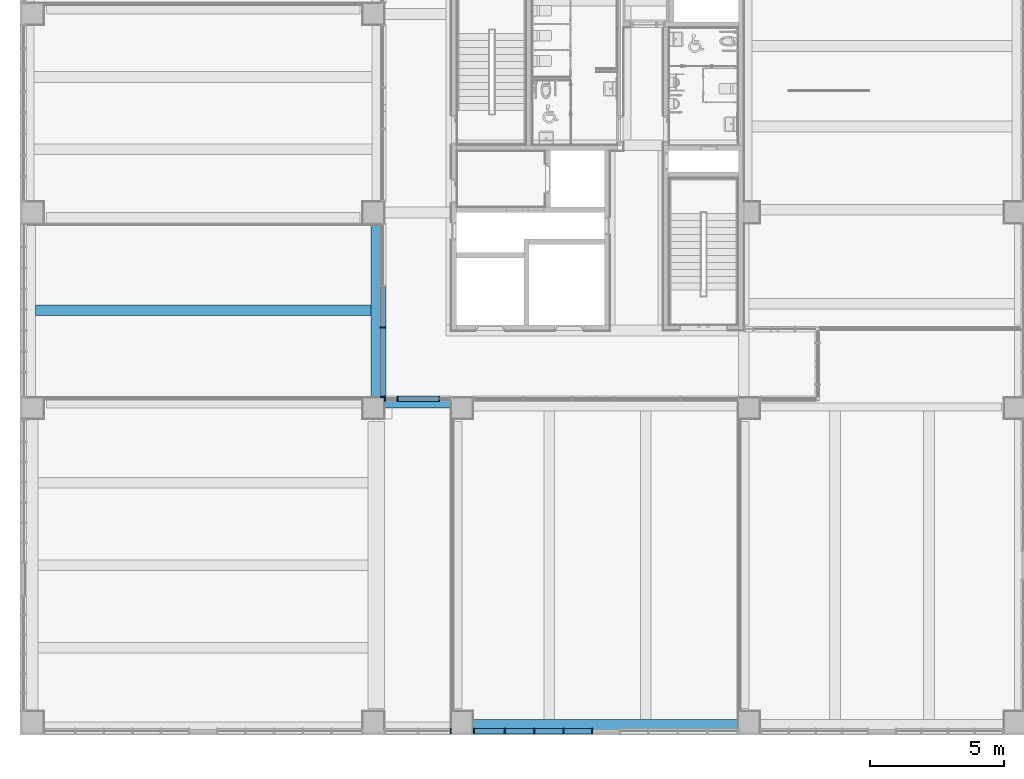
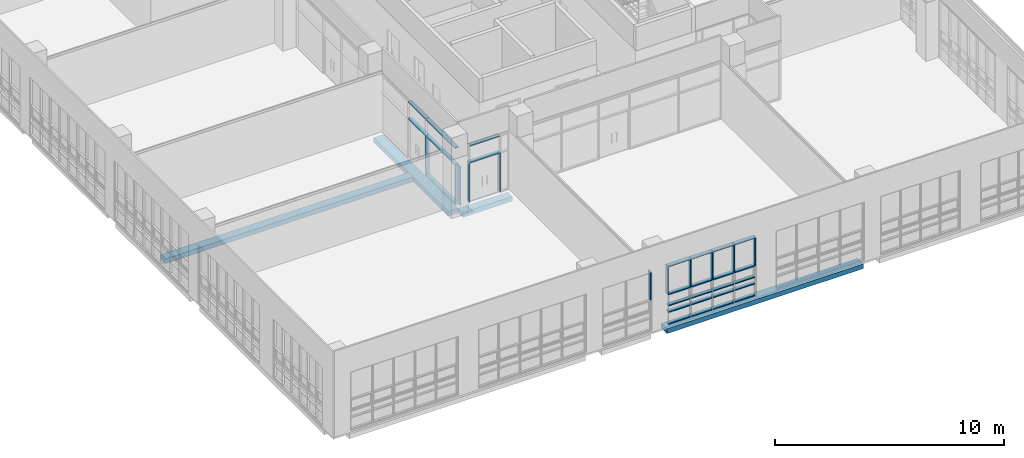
# One storey, part 4 of 74: 38 members, 4 beams, 4 elements without a shape of their own.
"""IFC2X3 building model written with IfcOpenShell, lengths in millimetres."""

import ifcopenshell
import ifcopenshell.guid

model = None  # the IFC model being written
_history = None  # IfcOwnerHistory: only IFC2X3 demands one
_inside = {}  # id of a spatial element -> (the spatial element, [elements in it])
_under = {}  # id of a project, library or spatial element -> (it, [spatial elements below it])
_declared = {}  # id of a project -> (the project, [libraries it declares])
_typed = {}  # id of a type object -> (the type object, [elements of that type])
_made_of = {}  # id of a material, layer set ... -> (it, [elements and type objects made of it])


def new_model(schema):
    """Start an empty IFC model of exactly this schema.

    Asked for "IFC4X3", IfcOpenShell would pick the latest addendum, in which some entities
    have other attributes; the version numbers below select the first issue.
    IFC2X3 requires an IfcOwnerHistory on every rooted entity: one is made here for all.
    """
    global model, _history
    if schema == "IFC4X3":
        model = ifcopenshell.file(schema_version=(4, 3, 0, 0))
    else:
        model = ifcopenshell.file(schema=schema)
    _inside.clear()
    _under.clear()
    _declared.clear()
    _typed.clear()
    _made_of.clear()
    _history = None
    if model.schema == "IFC2X3":
        org = make("IfcOrganization", Name="unknown")
        user = make(
            "IfcPersonAndOrganization",
            ThePerson=make("IfcPerson", FamilyName="unknown"),
            TheOrganization=org,
        )
        app = make(
            "IfcApplication",
            ApplicationDeveloper=org,
            Version="unknown",
            ApplicationFullName="unknown",
            ApplicationIdentifier="unknown",
        )
        _history = make(
            "IfcOwnerHistory",
            OwningUser=user,
            OwningApplication=app,
            ChangeAction="ADDED",
            CreationDate=0,
        )
    return model


def make(cls, **values):
    """One entity of the class cls with the attributes given. An attribute that is None is left unset."""
    return model.create_entity(
        cls, **{name: value for name, value in values.items() if value is not None}
    )


def entity(cls, *values):
    """Any entity or typed value of the class cls, its attributes in the order of the schema. None: left unset."""
    e = model.create_entity(cls)
    for i, value in enumerate(values):
        if value is not None:
            e[i] = value
    return e


def rooted(cls, **values):
    """An entity with a GlobalId (a new one), such as an element, a storey or a relation."""
    return make(cls, GlobalId=ifcopenshell.guid.new(), OwnerHistory=_history, **values)


def si_unit(unit_type, name, prefix=None):
    """IfcSIUnit, for example si_unit("LENGTHUNIT", "METRE", prefix="MILLI")."""
    return make("IfcSIUnit", UnitType=unit_type, Prefix=prefix, Name=name)


def converted_unit(unit_type, name, factor, base, dimensions=None, offset=None):
    """IfcConversionBasedUnit, such as the inch: factor (a typed value) times the base unit."""
    return make(
        "IfcConversionBasedUnit"
        if offset is None
        else "IfcConversionBasedUnitWithOffset",
        ConversionOffset=offset,
        Dimensions=None
        if dimensions is None
        else entity("IfcDimensionalExponents", *dimensions),
        UnitType=unit_type,
        Name=name,
        ConversionFactor=make(
            "IfcMeasureWithUnit", ValueComponent=factor, UnitComponent=base
        ),
    )


def derived_unit(unit_type, elements):
    """IfcDerivedUnit: a product of units, each with its exponent."""
    return make(
        "IfcDerivedUnit",
        Elements=[
            make("IfcDerivedUnitElement", Unit=unit, Exponent=power)
            for unit, power in elements
        ],
        UnitType=unit_type,
    )


def assignment(units):
    """IfcUnitAssignment: the units of a project."""
    return None if units is None else make("IfcUnitAssignment", Units=units)


def point(xyz):
    """IfcCartesianPoint."""
    return None if xyz is None else make("IfcCartesianPoint", Coordinates=xyz)


def direction(xyz):
    """IfcDirection."""
    return None if xyz is None else make("IfcDirection", DirectionRatios=xyz)


def frame(location, z_axis=None, x_axis=None):
    """IfcAxis2Placement3D, a coordinate frame: its origin and axes. An axis left out is left unset."""
    return make(
        "IfcAxis2Placement3D",
        Location=point(location),
        Axis=direction(z_axis),
        RefDirection=direction(x_axis),
    )


def frame_2d(location, x_axis=None):
    """IfcAxis2Placement2D, a coordinate frame in the plane: its origin and x axis."""
    return make(
        "IfcAxis2Placement2D", Location=point(location), RefDirection=direction(x_axis)
    )


def origin():
    """The frame at (0, 0, 0) with its axes left unset."""
    return frame((0.0, 0.0, 0.0))


def origin_2d_with_axis():
    """The frame at (0, 0) in the plane with the x axis (1, 0) written out."""
    return frame_2d((0.0, 0.0), x_axis=(1.0, 0.0))


def place(relative_to, where):
    """IfcLocalPlacement: puts the frame where relative to a parent placement (None: the world)."""
    return make(
        "IfcLocalPlacement", PlacementRelTo=relative_to, RelativePlacement=where
    )


def context(
    kind, dimensions, precision=None, world=None, true_north=None, identifier=None
):
    """IfcGeometricRepresentationContext, for example the 3D "Model" context."""
    return make(
        "IfcGeometricRepresentationContext",
        ContextIdentifier=identifier,
        ContextType=kind,
        CoordinateSpaceDimension=dimensions,
        Precision=precision,
        WorldCoordinateSystem=world,
        TrueNorth=true_north,
    )


def subcontext(parent, identifier, kind, view, scale=None):
    """IfcGeometricRepresentationSubContext, for example "Body" below "Model"."""
    return make(
        "IfcGeometricRepresentationSubContext",
        ContextIdentifier=identifier,
        ContextType=kind,
        ParentContext=parent,
        TargetScale=scale,
        TargetView=view,
    )


def project(units=None, contexts=None):
    """IfcProject with its units and contexts."""
    return rooted(
        "IfcProject",
        Name="project",
        RepresentationContexts=contexts,
        UnitsInContext=assignment(units),
    )


def spatial(cls, under=None, at=None, **own):
    """A site, building, storey or space (cls), placed at a placement, below another one or the project."""
    s = rooted(cls, ObjectPlacement=at, **own)
    if under is not None:
        _under.setdefault(under.id(), (under, []))[1].append(s)
    return s


def profile(cls, at=None, kind="AREA", **sizes):
    """A parametric profile (cls). Its sizes go by their IFC names, for example OverallWidth=200.0."""
    return make(cls, ProfileType=kind, Position=at, **sizes)


def rectangle(**sizes):
    """IfcRectangleProfileDef."""
    return profile("IfcRectangleProfileDef", **sizes)


def extrude(swept, where, along, depth):
    """IfcExtrudedAreaSolid: the profile swept, set in the frame where, extruded along a direction by depth."""
    return make(
        "IfcExtrudedAreaSolid",
        SweptArea=swept,
        Position=where,
        ExtrudedDirection=direction(along),
        Depth=depth,
    )


def shape(context_of_items, identifier, shape_type, items):
    """IfcShapeRepresentation: the items that make up one representation, for example the "Body"."""
    return make(
        "IfcShapeRepresentation",
        ContextOfItems=context_of_items,
        RepresentationIdentifier=identifier,
        RepresentationType=shape_type,
        Items=items,
    )


def source(mapping_origin, context_of_items, identifier, shape_type, items):
    """IfcRepresentationMap: a shape defined once, which mapped items show again and again."""
    return make(
        "IfcRepresentationMap",
        MappingOrigin=mapping_origin,
        MappedRepresentation=shape(context_of_items, identifier, shape_type, items),
    )


def transform(
    local_origin,
    x_axis=None,
    y_axis=None,
    z_axis=None,
    scale=None,
    scale2=None,
    scale3=None,
    uniform=True,
):
    """IfcCartesianTransformationOperator3D, or its non-uniform kind. x_axis, y_axis, z_axis: its Axis1, 2, 3."""
    if uniform:
        return make(
            "IfcCartesianTransformationOperator3D",
            Axis1=direction(x_axis),
            Axis2=direction(y_axis),
            LocalOrigin=point(local_origin),
            Scale=scale,
            Axis3=direction(z_axis),
        )
    return make(
        "IfcCartesianTransformationOperator3DnonUniform",
        Axis1=direction(x_axis),
        Axis2=direction(y_axis),
        LocalOrigin=point(local_origin),
        Scale=scale,
        Axis3=direction(z_axis),
        Scale2=scale2,
        Scale3=scale3,
    )


def mapped(mapping_source, mapping_target):
    """IfcMappedItem: shows the shape of a source again, moved by a transform."""
    return make(
        "IfcMappedItem", MappingSource=mapping_source, MappingTarget=mapping_target
    )


def material(Name=None, Category=None):
    """IfcMaterial."""
    return make("IfcMaterial", Name=Name, Category=Category)


def made_of(thing, what):
    """Note that an element or type object is made of a material, layer set ...; save() writes the relation."""
    if what is not None:
        _made_of.setdefault(what.id(), (what, []))[1].append(thing)
    return thing


def type_object(cls, material=None, **own):
    """A type object (cls), such as IfcWallType, which elements share."""
    return made_of(rooted(cls, **own), material)


def type_shapes(of_type, sources):
    """Give a type object the sources (RepresentationMaps) that its elements show as mapped items."""
    of_type.RepresentationMaps = sources


def element(
    cls,
    number,
    at=None,
    inside=None,
    cuts=None,
    type_object=None,
    material=None,
    context=None,
    identifier="Body",
    shape_type=None,
    held_by="IfcProductDefinitionShape",
    body=None,
    shapes=None,
    **own,
):
    """One element of the class cls, such as IfcWall. Its Tag is "e" and its number.

    at: its placement. inside: the storey or other place that contains it. cuts: it is an
    opening in that element (IfcRelVoidsElement). A single representation is given by context,
    identifier, shape_type and body (its items); several are given by shapes. held_by: the class
    of the entity that holds the representations. save() writes the other relations.
    """
    e = rooted(cls, Tag="e%d" % number, ObjectPlacement=at, **own)
    if body is not None:
        shapes = [shape(context, identifier, shape_type, body)]
    if shapes is not None:
        e.Representation = make(held_by, Representations=shapes)
    if inside is not None:
        _inside.setdefault(inside.id(), (inside, []))[1].append(e)
    if cuts is not None:
        rooted(
            "IfcRelVoidsElement", RelatingBuildingElement=cuts, RelatedOpeningElement=e
        )
    if type_object is not None:
        _typed.setdefault(type_object.id(), (type_object, []))[1].append(e)
    return made_of(e, material)


def aggregate(whole, parts):
    """IfcRelAggregates: a whole, such as a stair, and the parts it consists of."""
    return rooted("IfcRelAggregates", RelatingObject=whole, RelatedObjects=parts)


def save(model, path):
    """Write the relations noted so far, then the file.

    IfcRelAggregates (storeys below a building ...), IfcRelContainedInSpatialStructure (elements
    in a storey), IfcRelDefinesByType, IfcRelAssociatesMaterial and IfcRelDeclares: one each for
    every whole, place, type object, material and project.
    """
    for whole, parts in _under.values():
        aggregate(whole, parts)
    for where, things in _inside.values():
        rooted(
            "IfcRelContainedInSpatialStructure",
            RelatedElements=things,
            RelatingStructure=where,
        )
    for kind, things in _typed.values():
        rooted("IfcRelDefinesByType", RelatedObjects=things, RelatingType=kind)
    for what, things in _made_of.values():
        rooted("IfcRelAssociatesMaterial", RelatedObjects=things, RelatingMaterial=what)
    for by, libraries in _declared.values():
        rooted("IfcRelDeclares", RelatingContext=by, RelatedDefinitions=libraries)
    model.write(path)


model = new_model("IFC2X3")

# Units and contexts
model_context = context("Model", 3, precision=0.01, world=origin(), true_north=direction((6.123031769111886e-17, 1.0)))
body_context = subcontext(model_context, "Body", "Model", "MODEL_VIEW")
ifc_project = project(units=[si_unit("LENGTHUNIT", "METRE", prefix="MILLI"), si_unit("AREAUNIT", "SQUARE_METRE"), si_unit("VOLUMEUNIT", "CUBIC_METRE"), converted_unit("PLANEANGLEUNIT", "DEGREE", entity("IfcRatioMeasure", 0.017453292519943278), si_unit("PLANEANGLEUNIT", "RADIAN"), dimensions=[0, 0, 0, 0, 0, 0, 0]), si_unit("MASSUNIT", "GRAM", prefix="KILO"), derived_unit("MASSDENSITYUNIT", [(si_unit("MASSUNIT", "GRAM", prefix="KILO"), 1), (si_unit("LENGTHUNIT", "METRE"), -3)]), derived_unit("MOMENTOFINERTIAUNIT", [(si_unit("LENGTHUNIT", "METRE"), 4)]), si_unit("TIMEUNIT", "SECOND"), si_unit("FREQUENCYUNIT", "HERTZ"), si_unit("THERMODYNAMICTEMPERATUREUNIT", "DEGREE_CELSIUS"), derived_unit("THERMALTRANSMITTANCEUNIT", [(si_unit("MASSUNIT", "GRAM", prefix="KILO"), 1), (si_unit("THERMODYNAMICTEMPERATUREUNIT", "KELVIN"), -1), (si_unit("TIMEUNIT", "SECOND"), -3)]), derived_unit("VOLUMETRICFLOWRATEUNIT", [(si_unit("LENGTHUNIT", "METRE"), 3), (si_unit("TIMEUNIT", "SECOND"), -1)]), derived_unit("MASSFLOWRATEUNIT", [(si_unit("MASSUNIT", "GRAM", prefix="KILO"), 1), (si_unit("TIMEUNIT", "SECOND"), -1)]), derived_unit("ROTATIONALFREQUENCYUNIT", [(si_unit("TIMEUNIT", "SECOND"), -1)]), si_unit("ELECTRICCURRENTUNIT", "AMPERE"), si_unit("ELECTRICVOLTAGEUNIT", "VOLT"), si_unit("POWERUNIT", "WATT"), si_unit("FORCEUNIT", "NEWTON", prefix="KILO"), si_unit("ILLUMINANCEUNIT", "LUX"), si_unit("LUMINOUSFLUXUNIT", "LUMEN"), si_unit("LUMINOUSINTENSITYUNIT", "CANDELA"), derived_unit("USERDEFINED", [(si_unit("MASSUNIT", "GRAM", prefix="KILO"), -1), (si_unit("LENGTHUNIT", "METRE"), -2), (si_unit("TIMEUNIT", "SECOND"), 3), (si_unit("LUMINOUSFLUXUNIT", "LUMEN"), 1)]), derived_unit("SOUNDPOWERUNIT", [(si_unit("MASSUNIT", "GRAM", prefix="KILO"), 1), (si_unit("LENGTHUNIT", "METRE"), 2), (si_unit("TIMEUNIT", "SECOND"), -3)]), derived_unit("SOUNDPRESSUREUNIT", [(si_unit("MASSUNIT", "GRAM", prefix="KILO"), 1), (si_unit("LENGTHUNIT", "METRE"), -1), (si_unit("TIMEUNIT", "SECOND"), -2)]), derived_unit("LINEARVELOCITYUNIT", [(si_unit("LENGTHUNIT", "METRE"), 1), (si_unit("TIMEUNIT", "SECOND"), -1)]), si_unit("PRESSUREUNIT", "PASCAL"), derived_unit("USERDEFINED", [(si_unit("LENGTHUNIT", "METRE"), -2), (si_unit("MASSUNIT", "GRAM", prefix="KILO"), 1), (si_unit("TIMEUNIT", "SECOND"), -2)]), derived_unit("LINEARFORCEUNIT", [(si_unit("MASSUNIT", "GRAM", prefix="KILO"), 1), (si_unit("LENGTHUNIT", "METRE"), 1), (si_unit("TIMEUNIT", "SECOND"), -2), (si_unit("LENGTHUNIT", "METRE"), -1)]), derived_unit("PLANARFORCEUNIT", [(si_unit("MASSUNIT", "GRAM", prefix="KILO"), 1), (si_unit("LENGTHUNIT", "METRE"), 1), (si_unit("TIMEUNIT", "SECOND"), -2), (si_unit("LENGTHUNIT", "METRE"), -2)])], contexts=[model_context])

# Site, building, storey
site_placement = place(None, frame((-14167.972527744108, -657.2125860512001, 0.0)))
site = spatial("IfcSite", under=ifc_project, at=site_placement, Name="Default", CompositionType="ELEMENT")
building_placement = place(site_placement, origin())
building = spatial("IfcBuilding", under=site, at=building_placement, Name="Sample Building", CompositionType="ELEMENT")
storey_placement = place(building_placement, frame((0.0, 0.0, 4800.0)))
storey = spatial("IfcBuildingStorey", under=building, at=storey_placement, Name="지상 2층", CompositionType="ELEMENT", Elevation=4800.000000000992)

# Curtain wall, members
curtain_wall_type = type_object("IfcCurtainWallType", Name="커튼월:CW112-스테인리스 스틸 커튼월", PredefinedType="NOTDEFINED")
curtain_wall_1_placement = place(storey_placement, frame((0.0, 0.0, -4800.0)))
curtain_wall_1 = element("IfcCurtainWall", 1, at=curtain_wall_1_placement, inside=storey, type_object=curtain_wall_type, Name="커튼월:CW112-스테인리스 스틸 커튼월", ObjectType="커튼월:CW112-스테인리스 스틸 커튼월")
ifc_material_1 = material(Name="<Unnamed>")
member_type_1 = type_object("IfcMemberType", Name="직사각형 멀리언:CW200-직사각형 멀리언 50x200mm", PredefinedType="MULLION", material=ifc_material_1)
shared_shape_1 = source(origin(), body_context, "Body", "SweptSolid", [
    extrude(rectangle(XDim=200.0, YDim=50.0, at=origin_2d_with_axis()), frame((0.0, 0.0, -2100.0), z_axis=(0.0, 0.0, 1.0), x_axis=(0.0, -1.0, 0.0)), (0.0, 0.0, 1.0), 2100.0),
])
type_shapes(member_type_1, [shared_shape_1])
member_1_placement = place(curtain_wall_1_placement, frame((27522.972491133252, 15667.17762439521, 4880.0), z_axis=(0.0, 0.0, -1.0), x_axis=(0.0, -1.0, 0.0)))
member_1 = element("IfcMember", 2, at=member_1_placement, type_object=member_type_1, material=ifc_material_1, Name="직사각형 멀리언:CW200-직사각형 멀리언 50x200mm", ObjectType="직사각형 멀리언:CW200-직사각형 멀리언 50x200mm", context=body_context, shape_type="MappedRepresentation", body=[
    mapped(shared_shape_1, transform((0.0, 0.0, 0.0), scale=1.0)),
])
member_type_2 = type_object("IfcMemberType", Name="직사각형 멀리언:CW200-직사각형 멀리언 50x200mm", PredefinedType="MULLION", material=ifc_material_1)
shared_shape_2 = source(origin(), body_context, "Body", "SweptSolid", [
    extrude(rectangle(XDim=200.0, YDim=50.0, at=origin_2d_with_axis()), frame((-25.0, 0.0, -2100.0), z_axis=(0.0, 0.0, 1.0), x_axis=(0.0, -1.0, 0.0)), (0.0, 0.0, 1.0), 2100.0),
])
type_shapes(member_type_2, [shared_shape_2])
member_2_placement = place(curtain_wall_1_placement, frame((27522.972491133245, 13057.212307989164, 4880.0), z_axis=(0.0, 0.0, -1.0), x_axis=(0.0, -1.0, 0.0)))
member_2 = element("IfcMember", 3, at=member_2_placement, type_object=member_type_2, material=ifc_material_1, Name="직사각형 멀리언:CW200-직사각형 멀리언 50x200mm", ObjectType="직사각형 멀리언:CW200-직사각형 멀리언 50x200mm", context=body_context, shape_type="MappedRepresentation", body=[
    mapped(shared_shape_2, transform((0.0, 0.0, 0.0), scale=1.0)),
])
member_type_3 = type_object("IfcMemberType", Name="직사각형 멀리언:CW200-직사각형 멀리언 50x200mm", PredefinedType="MULLION", material=ifc_material_1)
shared_shape_3 = source(origin(), body_context, "Body", "SweptSolid", [
    extrude(rectangle(XDim=200.0, YDim=50.0, at=origin_2d_with_axis()), frame((-25.0, 0.0, -1500.0), z_axis=(0.0, 0.0, 1.0), x_axis=(0.0, -1.0, 0.0)), (0.0, 0.0, 1.0), 1500.0000000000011),
])
type_shapes(member_type_3, [shared_shape_3])
member_3_placement = place(curtain_wall_1_placement, frame((27522.972491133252, 15692.177624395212, 7900.0), z_axis=(0.0, -1.0, 0.0), x_axis=(0.0, 0.0, 1.0)))
member_3 = element("IfcMember", 4, at=member_3_placement, type_object=member_type_3, material=ifc_material_1, Name="직사각형 멀리언:CW200-직사각형 멀리언 50x200mm", ObjectType="직사각형 멀리언:CW200-직사각형 멀리언 50x200mm", context=body_context, shape_type="MappedRepresentation", body=[
    mapped(shared_shape_3, transform((0.0, 0.0, 0.0), scale=1.0)),
])
member_type_4 = type_object("IfcMemberType", Name="직사각형 멀리언:CW200-직사각형 멀리언 50x200mm", PredefinedType="MULLION", material=ifc_material_1)
shared_shape_4 = source(origin(), body_context, "Body", "SweptSolid", [
    extrude(rectangle(XDim=200.0, YDim=50.0, at=origin_2d_with_axis()), frame((0.0, 0.0, -1500.0), z_axis=(0.0, 0.0, 1.0), x_axis=(0.0, -1.0, 0.0)), (0.0, 0.0, 1.0), 1500.0000000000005),
])
type_shapes(member_type_4, [shared_shape_4])
member_4_placement = place(curtain_wall_1_placement, frame((27522.972491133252, 15692.177624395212, 6980.0), z_axis=(0.0, -1.0, 0.0), x_axis=(0.0, 0.0, 1.0)))
member_4 = element("IfcMember", 5, at=member_4_placement, type_object=member_type_4, material=ifc_material_1, Name="직사각형 멀리언:CW200-직사각형 멀리언 50x200mm", ObjectType="직사각형 멀리언:CW200-직사각형 멀리언 50x200mm", context=body_context, shape_type="MappedRepresentation", body=[
    mapped(shared_shape_4, transform((0.0, 0.0, 0.0), scale=1.0)),
])

# Curtain wall, member
curtain_wall_2_placement = place(storey_placement, frame((0.0, 0.0, -4800.0)))
curtain_wall_2 = element("IfcCurtainWall", 6, at=curtain_wall_2_placement, inside=storey, type_object=curtain_wall_type, Name="커튼월:CW112-스테인리스 스틸 커튼월", ObjectType="커튼월:CW112-스테인리스 스틸 커튼월")
member_type_5 = type_object("IfcMemberType", Name="직사각형 멀리언:CW200-직사각형 멀리언 50x200mm", PredefinedType="MULLION", material=ifc_material_1)
shared_shape_5 = source(origin(), body_context, "Body", "SweptSolid", [
    extrude(rectangle(XDim=200.0, YDim=50.0, at=origin_2d_with_axis()), frame((-25.0, 0.0, -1520.0), z_axis=(0.0, 0.0, 1.0), x_axis=(0.0, -1.0, 0.0)), (0.0, 0.0, 1.0), 1520.0000000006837),
])
type_shapes(member_type_5, [shared_shape_5])
member_5_placement = place(curtain_wall_2_placement, frame((30885.972463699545, 619.7122951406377, 8000.0), z_axis=(0.0, 0.0, 1.0), x_axis=(-1.0, 0.0, 0.0)))
member_5 = element("IfcMember", 7, at=member_5_placement, type_object=member_type_5, material=ifc_material_1, Name="직사각형 멀리언:CW200-직사각형 멀리언 50x200mm", ObjectType="직사각형 멀리언:CW200-직사각형 멀리언 50x200mm", context=body_context, shape_type="MappedRepresentation", body=[
    mapped(shared_shape_5, transform((0.0, 0.0, 0.0), scale=1.0)),
])

curtain_wall_3_placement = place(storey_placement, frame((0.0, 0.0, -4800.0)))
curtain_wall_3 = element("IfcCurtainWall", 8, at=curtain_wall_3_placement, inside=storey, type_object=curtain_wall_type, Name="커튼월:CW112-스테인리스 스틸 커튼월", ObjectType="커튼월:CW112-스테인리스 스틸 커튼월")
member_type_6 = type_object("IfcMemberType", Name="직사각형 멀리언:CW200-직사각형 멀리언 50x200mm", PredefinedType="MULLION", material=ifc_material_1)
shared_shape_6 = source(origin(), body_context, "Body", "SweptSolid", [
    extrude(rectangle(XDim=200.0, YDim=50.0, at=origin_2d_with_axis()), frame((-25.0, 0.0, -1520.0), z_axis=(0.0, 0.0, 1.0), x_axis=(0.0, -1.0, 0.0)), (0.0, 0.0, 1.0), 1520.0000000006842),
])
type_shapes(member_type_6, [shared_shape_6])
member_6_placement = place(curtain_wall_3_placement, frame((30067.972463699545, 619.7122951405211, 6480.0), z_axis=(0.0, 0.0, -1.0), x_axis=(1.0, 0.0, 0.0)))
member_6 = element("IfcMember", 9, at=member_6_placement, type_object=member_type_6, material=ifc_material_1, Name="직사각형 멀리언:CW200-직사각형 멀리언 50x200mm", ObjectType="직사각형 멀리언:CW200-직사각형 멀리언 50x200mm", context=body_context, shape_type="MappedRepresentation", body=[
    mapped(shared_shape_6, transform((0.0, 0.0, 0.0), scale=1.0)),
])
aggregate(curtain_wall_3, [member_6])

# Member
member_7_placement = place(curtain_wall_2_placement, frame((35343.23862338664, 619.712295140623, 6480.0), z_axis=(0.0, 0.0, -1.0), x_axis=(1.0, 0.0, 0.0)))
member_7 = element("IfcMember", 10, at=member_7_placement, type_object=member_type_6, material=ifc_material_1, Name="직사각형 멀리언:CW200-직사각형 멀리언 50x200mm", ObjectType="직사각형 멀리언:CW200-직사각형 멀리언 50x200mm", context=body_context, shape_type="MappedRepresentation", body=[
    mapped(shared_shape_6, transform((0.0, 0.0, 0.0), scale=1.0)),
])

member_type_7 = type_object("IfcMemberType", Name="직사각형 멀리언:CW200-직사각형 멀리언 50x200mm", PredefinedType="MULLION", material=ifc_material_1)
shared_shape_7 = source(origin(), body_context, "Body", "SweptSolid", [
    extrude(rectangle(XDim=200.0, YDim=50.0, at=origin_2d_with_axis()), frame((0.0, 0.0, -1520.0), z_axis=(0.0, 0.0, 1.0), x_axis=(0.0, -1.0, 0.0)), (0.0, 0.0, 1.0), 1520.0000000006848),
])
type_shapes(member_type_7, [shared_shape_7])
member_8_placement = place(curtain_wall_2_placement, frame((32061.98862338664, 619.7122951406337, 6480.0), z_axis=(0.0, 0.0, -1.0), x_axis=(1.0, 0.0, 0.0)))
member_8 = element("IfcMember", 11, at=member_8_placement, type_object=member_type_7, material=ifc_material_1, Name="직사각형 멀리언:CW200-직사각형 멀리언 50x200mm", ObjectType="직사각형 멀리언:CW200-직사각형 멀리언 50x200mm", context=body_context, shape_type="MappedRepresentation", body=[
    mapped(shared_shape_7, transform((0.0, 0.0, 0.0), scale=1.0)),
])

member_9_placement = place(curtain_wall_2_placement, frame((33155.73862338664, 619.7122951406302, 6480.0), z_axis=(0.0, 0.0, -1.0), x_axis=(1.0, 0.0, 0.0)))
member_9 = element("IfcMember", 12, at=member_9_placement, type_object=member_type_7, material=ifc_material_1, Name="직사각형 멀리언:CW200-직사각형 멀리언 50x200mm", ObjectType="직사각형 멀리언:CW200-직사각형 멀리언 50x200mm", context=body_context, shape_type="MappedRepresentation", body=[
    mapped(shared_shape_7, transform((0.0, 0.0, 0.0), scale=1.0)),
])

member_10_placement = place(curtain_wall_2_placement, frame((34249.48862338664, 619.7122951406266, 6480.0), z_axis=(0.0, 0.0, -1.0), x_axis=(1.0, 0.0, 0.0)))
member_10 = element("IfcMember", 13, at=member_10_placement, type_object=member_type_7, material=ifc_material_1, Name="직사각형 멀리언:CW200-직사각형 멀리언 50x200mm", ObjectType="직사각형 멀리언:CW200-직사각형 멀리언 50x200mm", context=body_context, shape_type="MappedRepresentation", body=[
    mapped(shared_shape_7, transform((0.0, 0.0, 0.0), scale=1.0)),
])

member_type_8 = type_object("IfcMemberType", Name="직사각형 멀리언:CW200-직사각형 멀리언 50x200mm", PredefinedType="MULLION", material=ifc_material_1)
shared_shape_8 = source(origin(), body_context, "Body", "SweptSolid", [
    extrude(rectangle(XDim=200.0, YDim=50.0, at=origin_2d_with_axis()), frame((-25.0, 0.0, -1018.7499999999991), z_axis=(0.0, 0.0, 1.0), x_axis=(0.0, -1.0, 0.0)), (0.0, 0.0, 1.0), 1018.7499999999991),
])
type_shapes(member_type_8, [shared_shape_8])
member_11_placement = place(curtain_wall_2_placement, frame((35293.23862338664, 619.7122951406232, 8000.0), z_axis=(1.0, 0.0, 0.0), x_axis=(0.0, 0.0, 1.0)))
member_11 = element("IfcMember", 14, at=member_11_placement, type_object=member_type_8, material=ifc_material_1, Name="직사각형 멀리언:CW200-직사각형 멀리언 50x200mm", ObjectType="직사각형 멀리언:CW200-직사각형 멀리언 50x200mm", context=body_context, shape_type="MappedRepresentation", body=[
    mapped(shared_shape_8, transform((0.0, 0.0, 0.0), scale=1.0)),
])

member_type_9 = type_object("IfcMemberType", Name="직사각형 멀리언:CW200-직사각형 멀리언 50x200mm", PredefinedType="MULLION", material=ifc_material_1)
shared_shape_9 = source(origin(), body_context, "Body", "SweptSolid", [
    extrude(rectangle(XDim=200.0, YDim=50.0, at=origin_2d_with_axis()), frame((-25.0, 0.0, -1101.0161596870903), z_axis=(0.0, 0.0, 1.0), x_axis=(0.0, -1.0, 0.0)), (0.0, 0.0, 1.0), 1101.0161596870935),
])
type_shapes(member_type_9, [shared_shape_9])
member_12_placement = place(curtain_wall_2_placement, frame((30935.97246369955, 619.7122951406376, 4880.0), z_axis=(-1.0, 0.0, 0.0), x_axis=(0.0, 0.0, -1.0)))
member_12 = element("IfcMember", 15, at=member_12_placement, type_object=member_type_9, material=ifc_material_1, Name="직사각형 멀리언:CW200-직사각형 멀리언 50x200mm", ObjectType="직사각형 멀리언:CW200-직사각형 멀리언 50x200mm", context=body_context, shape_type="MappedRepresentation", body=[
    mapped(shared_shape_9, transform((0.0, 0.0, 0.0), scale=1.0)),
])

member_type_10 = type_object("IfcMemberType", Name="직사각형 멀리언:CW200-직사각형 멀리언 50x200mm", PredefinedType="MULLION", material=ifc_material_1)
shared_shape_10 = source(origin(), body_context, "Body", "SweptSolid", [
    extrude(rectangle(XDim=200.0, YDim=50.0, at=origin_2d_with_axis()), frame((-25.0, 0.0, -1101.016159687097), z_axis=(0.0, 0.0, 1.0), x_axis=(0.0, -1.0, 0.0)), (0.0, 0.0, 1.0), 1101.0161596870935),
])
type_shapes(member_type_10, [shared_shape_10])
member_13_placement = place(curtain_wall_2_placement, frame((32036.988623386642, 619.712295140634, 8000.0), z_axis=(1.0, 0.0, 0.0), x_axis=(0.0, 0.0, 1.0)))
member_13 = element("IfcMember", 16, at=member_13_placement, type_object=member_type_10, material=ifc_material_1, Name="직사각형 멀리언:CW200-직사각형 멀리언 50x200mm", ObjectType="직사각형 멀리언:CW200-직사각형 멀리언 50x200mm", context=body_context, shape_type="MappedRepresentation", body=[
    mapped(shared_shape_10, transform((0.0, 0.0, 0.0), scale=1.0)),
])

member_type_11 = type_object("IfcMemberType", Name="직사각형 멀리언:CW200-직사각형 멀리언 50x200mm", PredefinedType="MULLION", material=ifc_material_1)
shared_shape_11 = source(origin(), body_context, "Body", "SweptSolid", [
    extrude(rectangle(XDim=200.0, YDim=50.0, at=origin_2d_with_axis()), frame((-25.0, 0.0, -1043.7499999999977), z_axis=(0.0, 0.0, 1.0), x_axis=(0.0, -1.0, 0.0)), (0.0, 0.0, 1.0), 1043.7499999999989),
])
type_shapes(member_type_11, [shared_shape_11])
member_14_placement = place(curtain_wall_2_placement, frame((32086.98862338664, 619.7122951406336, 4880.0), z_axis=(-1.0, 0.0, 0.0), x_axis=(0.0, 0.0, -1.0)))
member_14 = element("IfcMember", 17, at=member_14_placement, type_object=member_type_11, material=ifc_material_1, Name="직사각형 멀리언:CW200-직사각형 멀리언 50x200mm", ObjectType="직사각형 멀리언:CW200-직사각형 멀리언 50x200mm", context=body_context, shape_type="MappedRepresentation", body=[
    mapped(shared_shape_11, transform((0.0, 0.0, 0.0), scale=1.0)),
])

member_15_placement = place(curtain_wall_2_placement, frame((33180.73862338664, 619.7122951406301, 4880.0), z_axis=(-1.0, 0.0, 0.0), x_axis=(0.0, 0.0, -1.0)))
member_15 = element("IfcMember", 18, at=member_15_placement, type_object=member_type_11, material=ifc_material_1, Name="직사각형 멀리언:CW200-직사각형 멀리언 50x200mm", ObjectType="직사각형 멀리언:CW200-직사각형 멀리언 50x200mm", context=body_context, shape_type="MappedRepresentation", body=[
    mapped(shared_shape_11, transform((0.0, 0.0, 0.0), scale=1.0)),
])

member_type_12 = type_object("IfcMemberType", Name="직사각형 멀리언:CW200-직사각형 멀리언 50x200mm", PredefinedType="MULLION", material=ifc_material_1)
shared_shape_12 = source(origin(), body_context, "Body", "SweptSolid", [
    extrude(rectangle(XDim=200.0, YDim=50.0, at=origin_2d_with_axis()), frame((-25.0, 0.0, -1043.7500000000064), z_axis=(0.0, 0.0, 1.0), x_axis=(0.0, -1.0, 0.0)), (0.0, 0.0, 1.0), 1043.7500000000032),
])
type_shapes(member_type_12, [shared_shape_12])
member_16_placement = place(curtain_wall_2_placement, frame((33130.73862338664, 619.7122951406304, 8000.0), z_axis=(1.0, 0.0, 0.0), x_axis=(0.0, 0.0, 1.0)))
member_16 = element("IfcMember", 19, at=member_16_placement, type_object=member_type_12, material=ifc_material_1, Name="직사각형 멀리언:CW200-직사각형 멀리언 50x200mm", ObjectType="직사각형 멀리언:CW200-직사각형 멀리언 50x200mm", context=body_context, shape_type="MappedRepresentation", body=[
    mapped(shared_shape_12, transform((0.0, 0.0, 0.0), scale=1.0)),
])

member_17_placement = place(curtain_wall_2_placement, frame((34224.48862338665, 619.7122951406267, 8000.0), z_axis=(1.0, 0.0, 0.0), x_axis=(0.0, 0.0, 1.0)))
member_17 = element("IfcMember", 20, at=member_17_placement, type_object=member_type_12, material=ifc_material_1, Name="직사각형 멀리언:CW200-직사각형 멀리언 50x200mm", ObjectType="직사각형 멀리언:CW200-직사각형 멀리언 50x200mm", context=body_context, shape_type="MappedRepresentation", body=[
    mapped(shared_shape_12, transform((0.0, 0.0, 0.0), scale=1.0)),
])

member_type_13 = type_object("IfcMemberType", Name="직사각형 멀리언:CW200-직사각형 멀리언 50x200mm", PredefinedType="MULLION", material=ifc_material_1)
shared_shape_13 = source(origin(), body_context, "Body", "SweptSolid", [
    extrude(rectangle(XDim=200.0, YDim=50.0, at=origin_2d_with_axis()), frame((0.0, 0.0, -1101.016159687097), z_axis=(0.0, 0.0, 1.0), x_axis=(0.0, -1.0, 0.0)), (0.0, 0.0, 1.0), 1101.0161596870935),
])
type_shapes(member_type_13, [shared_shape_13])
member_18_placement = place(curtain_wall_2_placement, frame((32036.988623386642, 619.712295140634, 6480.0), z_axis=(1.0, 0.0, 0.0), x_axis=(0.0, 0.0, 1.0)))
member_18 = element("IfcMember", 21, at=member_18_placement, type_object=member_type_13, material=ifc_material_1, Name="직사각형 멀리언:CW200-직사각형 멀리언 50x200mm", ObjectType="직사각형 멀리언:CW200-직사각형 멀리언 50x200mm", context=body_context, shape_type="MappedRepresentation", body=[
    mapped(shared_shape_13, transform((0.0, 0.0, 0.0), scale=1.0)),
])

member_19_placement = place(curtain_wall_2_placement, frame((32036.988623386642, 619.712295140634, 5880.0), z_axis=(1.0, 0.0, 0.0), x_axis=(0.0, 0.0, 1.0)))
member_19 = element("IfcMember", 22, at=member_19_placement, type_object=member_type_13, material=ifc_material_1, Name="직사각형 멀리언:CW200-직사각형 멀리언 50x200mm", ObjectType="직사각형 멀리언:CW200-직사각형 멀리언 50x200mm", context=body_context, shape_type="MappedRepresentation", body=[
    mapped(shared_shape_13, transform((0.0, 0.0, 0.0), scale=1.0)),
])

member_20_placement = place(curtain_wall_2_placement, frame((32036.988623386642, 619.712295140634, 5530.0), z_axis=(1.0, 0.0, 0.0), x_axis=(0.0, 0.0, 1.0)))
member_20 = element("IfcMember", 23, at=member_20_placement, type_object=member_type_13, material=ifc_material_1, Name="직사각형 멀리언:CW200-직사각형 멀리언 50x200mm", ObjectType="직사각형 멀리언:CW200-직사각형 멀리언 50x200mm", context=body_context, shape_type="MappedRepresentation", body=[
    mapped(shared_shape_13, transform((0.0, 0.0, 0.0), scale=1.0)),
])

member_type_14 = type_object("IfcMemberType", Name="직사각형 멀리언:CW200-직사각형 멀리언 50x200mm", PredefinedType="MULLION", material=ifc_material_1)
shared_shape_14 = source(origin(), body_context, "Body", "SweptSolid", [
    extrude(rectangle(XDim=200.0, YDim=50.0, at=origin_2d_with_axis()), frame((0.0, 0.0, -1043.7500000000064), z_axis=(0.0, 0.0, 1.0), x_axis=(0.0, -1.0, 0.0)), (0.0, 0.0, 1.0), 1043.7500000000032),
])
type_shapes(member_type_14, [shared_shape_14])
member_21_placement = place(curtain_wall_2_placement, frame((33130.73862338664, 619.7122951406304, 6480.0), z_axis=(1.0, 0.0, 0.0), x_axis=(0.0, 0.0, 1.0)))
member_21 = element("IfcMember", 24, at=member_21_placement, type_object=member_type_14, material=ifc_material_1, Name="직사각형 멀리언:CW200-직사각형 멀리언 50x200mm", ObjectType="직사각형 멀리언:CW200-직사각형 멀리언 50x200mm", context=body_context, shape_type="MappedRepresentation", body=[
    mapped(shared_shape_14, transform((0.0, 0.0, 0.0), scale=1.0)),
])

member_22_placement = place(curtain_wall_2_placement, frame((34224.48862338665, 619.7122951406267, 6480.0), z_axis=(1.0, 0.0, 0.0), x_axis=(0.0, 0.0, 1.0)))
member_22 = element("IfcMember", 25, at=member_22_placement, type_object=member_type_14, material=ifc_material_1, Name="직사각형 멀리언:CW200-직사각형 멀리언 50x200mm", ObjectType="직사각형 멀리언:CW200-직사각형 멀리언 50x200mm", context=body_context, shape_type="MappedRepresentation", body=[
    mapped(shared_shape_14, transform((0.0, 0.0, 0.0), scale=1.0)),
])

member_23_placement = place(curtain_wall_2_placement, frame((33130.73862338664, 619.7122951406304, 5880.0), z_axis=(1.0, 0.0, 0.0), x_axis=(0.0, 0.0, 1.0)))
member_23 = element("IfcMember", 26, at=member_23_placement, type_object=member_type_14, material=ifc_material_1, Name="직사각형 멀리언:CW200-직사각형 멀리언 50x200mm", ObjectType="직사각형 멀리언:CW200-직사각형 멀리언 50x200mm", context=body_context, shape_type="MappedRepresentation", body=[
    mapped(shared_shape_14, transform((0.0, 0.0, 0.0), scale=1.0)),
])

member_24_placement = place(curtain_wall_2_placement, frame((34224.48862338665, 619.7122951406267, 5880.0), z_axis=(1.0, 0.0, 0.0), x_axis=(0.0, 0.0, 1.0)))
member_24 = element("IfcMember", 27, at=member_24_placement, type_object=member_type_14, material=ifc_material_1, Name="직사각형 멀리언:CW200-직사각형 멀리언 50x200mm", ObjectType="직사각형 멀리언:CW200-직사각형 멀리언 50x200mm", context=body_context, shape_type="MappedRepresentation", body=[
    mapped(shared_shape_14, transform((0.0, 0.0, 0.0), scale=1.0)),
])

member_25_placement = place(curtain_wall_2_placement, frame((33130.73862338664, 619.7122951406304, 5530.0), z_axis=(1.0, 0.0, 0.0), x_axis=(0.0, 0.0, 1.0)))
member_25 = element("IfcMember", 28, at=member_25_placement, type_object=member_type_14, material=ifc_material_1, Name="직사각형 멀리언:CW200-직사각형 멀리언 50x200mm", ObjectType="직사각형 멀리언:CW200-직사각형 멀리언 50x200mm", context=body_context, shape_type="MappedRepresentation", body=[
    mapped(shared_shape_14, transform((0.0, 0.0, 0.0), scale=1.0)),
])

member_26_placement = place(curtain_wall_2_placement, frame((34224.48862338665, 619.7122951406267, 5530.0), z_axis=(1.0, 0.0, 0.0), x_axis=(0.0, 0.0, 1.0)))
member_26 = element("IfcMember", 29, at=member_26_placement, type_object=member_type_14, material=ifc_material_1, Name="직사각형 멀리언:CW200-직사각형 멀리언 50x200mm", ObjectType="직사각형 멀리언:CW200-직사각형 멀리언 50x200mm", context=body_context, shape_type="MappedRepresentation", body=[
    mapped(shared_shape_14, transform((0.0, 0.0, 0.0), scale=1.0)),
])

member_type_15 = type_object("IfcMemberType", Name="직사각형 멀리언:CW200-직사각형 멀리언 50x200mm", PredefinedType="MULLION", material=ifc_material_1)
shared_shape_15 = source(origin(), body_context, "Body", "SweptSolid", [
    extrude(rectangle(XDim=200.0, YDim=50.0, at=origin_2d_with_axis()), frame((-25.0, 0.0, -1018.7499999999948), z_axis=(0.0, 0.0, 1.0), x_axis=(0.0, -1.0, 0.0)), (0.0, 0.0, 1.0), 1018.749999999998),
])
type_shapes(member_type_15, [shared_shape_15])
member_27_placement = place(curtain_wall_2_placement, frame((34274.48862338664, 619.7122951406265, 4880.0), z_axis=(-1.0, 0.0, 0.0), x_axis=(0.0, 0.0, -1.0)))
member_27 = element("IfcMember", 30, at=member_27_placement, type_object=member_type_15, material=ifc_material_1, Name="직사각형 멀리언:CW200-직사각형 멀리언 50x200mm", ObjectType="직사각형 멀리언:CW200-직사각형 멀리언 50x200mm", context=body_context, shape_type="MappedRepresentation", body=[
    mapped(shared_shape_15, transform((0.0, 0.0, 0.0), scale=1.0)),
])

member_type_16 = type_object("IfcMemberType", Name="직사각형 멀리언:CW200-직사각형 멀리언 50x200mm", PredefinedType="MULLION", material=ifc_material_1)
shared_shape_16 = source(origin(), body_context, "Body", "SweptSolid", [
    extrude(rectangle(XDim=200.0, YDim=50.0, at=origin_2d_with_axis()), frame((0.0, 0.0, -1018.7500000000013), z_axis=(0.0, 0.0, 1.0), x_axis=(0.0, -1.0, 0.0)), (0.0, 0.0, 1.0), 1018.749999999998),
])
type_shapes(member_type_16, [shared_shape_16])
member_28_placement = place(curtain_wall_2_placement, frame((35293.23862338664, 619.7122951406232, 6480.0), z_axis=(1.0, 0.0, 0.0), x_axis=(0.0, 0.0, 1.0)))
member_28 = element("IfcMember", 31, at=member_28_placement, type_object=member_type_16, material=ifc_material_1, Name="직사각형 멀리언:CW200-직사각형 멀리언 50x200mm", ObjectType="직사각형 멀리언:CW200-직사각형 멀리언 50x200mm", context=body_context, shape_type="MappedRepresentation", body=[
    mapped(shared_shape_16, transform((0.0, 0.0, 0.0), scale=1.0)),
])

member_29_placement = place(curtain_wall_2_placement, frame((35293.23862338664, 619.7122951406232, 5880.0), z_axis=(1.0, 0.0, 0.0), x_axis=(0.0, 0.0, 1.0)))
member_29 = element("IfcMember", 32, at=member_29_placement, type_object=member_type_16, material=ifc_material_1, Name="직사각형 멀리언:CW200-직사각형 멀리언 50x200mm", ObjectType="직사각형 멀리언:CW200-직사각형 멀리언 50x200mm", context=body_context, shape_type="MappedRepresentation", body=[
    mapped(shared_shape_16, transform((0.0, 0.0, 0.0), scale=1.0)),
])

member_30_placement = place(curtain_wall_2_placement, frame((35293.23862338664, 619.7122951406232, 5530.0), z_axis=(1.0, 0.0, 0.0), x_axis=(0.0, 0.0, 1.0)))
member_30 = element("IfcMember", 33, at=member_30_placement, type_object=member_type_16, material=ifc_material_1, Name="직사각형 멀리언:CW200-직사각형 멀리언 50x200mm", ObjectType="직사각형 멀리언:CW200-직사각형 멀리언 50x200mm", context=body_context, shape_type="MappedRepresentation", body=[
    mapped(shared_shape_16, transform((0.0, 0.0, 0.0), scale=1.0)),
])

aggregate(curtain_wall_2, [member_11, member_12, member_5, member_13, member_14, member_16, member_15, member_7, member_18, member_21, member_22, member_8, member_9, member_17, member_27, member_28, member_10, member_19, member_23, member_24, member_29, member_20, member_25, member_26, member_30])

member_type_17 = type_object("IfcMemberType", Name="직사각형 멀리언:CW200-직사각형 멀리언 50x200mm", PredefinedType="MULLION", material=ifc_material_1)
shared_shape_17 = source(origin(), body_context, "Body", "SweptSolid", [
    extrude(rectangle(XDim=200.0, YDim=50.0, at=origin_2d_with_axis()), frame((-25.0, 0.0, -2534.965316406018), z_axis=(0.0, 0.0, 1.0), x_axis=(0.0, -1.0, 0.0)), (0.0, 0.0, 1.0), 2534.965316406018),
])
type_shapes(member_type_17, [shared_shape_17])
member_31_placement = place(curtain_wall_1_placement, frame((27522.972491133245, 13107.212307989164, 7900.0), z_axis=(0.0, -1.0, 0.0), x_axis=(0.0, 0.0, 1.0)))
member_31 = element("IfcMember", 34, at=member_31_placement, type_object=member_type_17, material=ifc_material_1, Name="직사각형 멀리언:CW200-직사각형 멀리언 50x200mm", ObjectType="직사각형 멀리언:CW200-직사각형 멀리언 50x200mm", context=body_context, shape_type="MappedRepresentation", body=[
    mapped(shared_shape_17, transform((0.0, 0.0, 0.0), scale=1.0)),
])

member_type_18 = type_object("IfcMemberType", Name="직사각형 멀리언:CW200-직사각형 멀리언 50x200mm", PredefinedType="MULLION", material=ifc_material_1)
shared_shape_18 = source(origin(), body_context, "Body", "SweptSolid", [
    extrude(rectangle(XDim=200.0, YDim=50.0, at=origin_2d_with_axis()), frame((-25.0, 0.0, -2534.965316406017), z_axis=(0.0, 0.0, 1.0), x_axis=(0.0, -1.0, 0.0)), (0.0, 0.0, 1.0), 2534.965316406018),
])
type_shapes(member_type_18, [shared_shape_18])
member_32_placement = place(curtain_wall_1_placement, frame((27522.972491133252, 15642.17762439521, 4880.0), z_axis=(0.0, 1.0, 0.0), x_axis=(0.0, 0.0, -1.0)))
member_32 = element("IfcMember", 35, at=member_32_placement, type_object=member_type_18, material=ifc_material_1, Name="직사각형 멀리언:CW200-직사각형 멀리언 50x200mm", ObjectType="직사각형 멀리언:CW200-직사각형 멀리언 50x200mm", context=body_context, shape_type="MappedRepresentation", body=[
    mapped(shared_shape_18, transform((0.0, 0.0, 0.0), scale=1.0)),
])

member_type_19 = type_object("IfcMemberType", Name="직사각형 멀리언:CW200-직사각형 멀리언 50x200mm", PredefinedType="MULLION", material=ifc_material_1)
shared_shape_19 = source(origin(), body_context, "Body", "SweptSolid", [
    extrude(rectangle(XDim=200.0, YDim=50.0, at=origin_2d_with_axis()), frame((0.0, 0.0, -2534.9653164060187), z_axis=(0.0, 0.0, 1.0), x_axis=(0.0, -1.0, 0.0)), (0.0, 0.0, 1.0), 2534.9653164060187),
])
type_shapes(member_type_19, [shared_shape_19])
member_33_placement = place(curtain_wall_1_placement, frame((27522.972491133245, 13107.212307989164, 6980.0), z_axis=(0.0, -1.0, 0.0), x_axis=(0.0, 0.0, 1.0)))
member_33 = element("IfcMember", 36, at=member_33_placement, type_object=member_type_19, material=ifc_material_1, Name="직사각형 멀리언:CW200-직사각형 멀리언 50x200mm", ObjectType="직사각형 멀리언:CW200-직사각형 멀리언 50x200mm", context=body_context, shape_type="MappedRepresentation", body=[
    mapped(shared_shape_19, transform((0.0, 0.0, 0.0), scale=1.0)),
])

aggregate(curtain_wall_1, [member_31, member_2, member_3, member_32, member_1, member_4, member_33])

# Curtain wall, members
curtain_wall_4_placement = place(storey_placement, frame((0.0, 0.0, -4800.0)))
curtain_wall_4 = element("IfcCurtainWall", 37, at=curtain_wall_4_placement, inside=storey, type_object=curtain_wall_type, Name="커튼월:CW112-스테인리스 스틸 커튼월", ObjectType="커튼월:CW112-스테인리스 스틸 커튼월")
member_type_20 = type_object("IfcMemberType", Name="직사각형 멀리언:CW200-직사각형 멀리언 50x200mm", PredefinedType="MULLION", material=ifc_material_1)
shared_shape_20 = source(origin(), body_context, "Body", "SweptSolid", [
    extrude(rectangle(XDim=200.0, YDim=50.0, at=origin_2d_with_axis()), frame((-25.0, 0.0, -2100.0), z_axis=(0.0, 0.0, 1.0), x_axis=(0.0, -1.0, 0.0)), (0.0, 0.0, 1.0), 2100.0),
])
type_shapes(member_type_20, [shared_shape_20])
member_34_placement = place(curtain_wall_4_placement, frame((27567.98031454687, 13012.212307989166, 4880.0), z_axis=(0.0, 0.0, -1.0), x_axis=(-1.0, 0.0, 0.0)))
member_34 = element("IfcMember", 38, at=member_34_placement, type_object=member_type_20, material=ifc_material_1, Name="직사각형 멀리언:CW200-직사각형 멀리언 50x200mm", ObjectType="직사각형 멀리언:CW200-직사각형 멀리언 50x200mm", context=body_context, shape_type="MappedRepresentation", body=[
    mapped(shared_shape_20, transform((0.0, 0.0, 0.0), scale=1.0)),
])
member_type_21 = type_object("IfcMemberType", Name="직사각형 멀리언:CW200-직사각형 멀리언 50x200mm", PredefinedType="MULLION", material=ifc_material_1)
shared_shape_21 = source(origin(), body_context, "Body", "SweptSolid", [
    extrude(rectangle(XDim=200.0, YDim=50.0, at=origin_2d_with_axis()), frame((0.0, 0.0, -1500.0), z_axis=(0.0, 0.0, 1.0), x_axis=(0.0, -1.0, 0.0)), (0.0, 0.0, 1.0), 1499.999999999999),
])
type_shapes(member_type_21, [shared_shape_21])
member_35_placement = place(curtain_wall_4_placement, frame((28091.1258144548, 13012.212307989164, 6980.0), z_axis=(-1.0, 0.0, 0.0), x_axis=(0.0, 0.0, 1.0)))
member_35 = element("IfcMember", 39, at=member_35_placement, type_object=member_type_21, material=ifc_material_1, Name="직사각형 멀리언:CW200-직사각형 멀리언 50x200mm", ObjectType="직사각형 멀리언:CW200-직사각형 멀리언 50x200mm", context=body_context, shape_type="MappedRepresentation", body=[
    mapped(shared_shape_21, transform((0.0, 0.0, 0.0), scale=1.0)),
])
member_type_22 = type_object("IfcMemberType", Name="직사각형 멀리언:CW200-직사각형 멀리언 50x200mm", PredefinedType="MULLION", material=ifc_material_1)
shared_shape_22 = source(origin(), body_context, "Body", "SweptSolid", [
    extrude(rectangle(XDim=200.0, YDim=50.0, at=origin_2d_with_axis()), frame((0.0, 0.0, -2100.0), z_axis=(0.0, 0.0, 1.0), x_axis=(0.0, -1.0, 0.0)), (0.0, 0.0, 1.0), 2100.0),
])
type_shapes(member_type_22, [shared_shape_22])
member_36_placement = place(curtain_wall_4_placement, frame((29616.1258144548, 13012.212307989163, 4880.0), z_axis=(0.0, 0.0, -1.0), x_axis=(-1.0, 0.0, 0.0)))
member_36 = element("IfcMember", 40, at=member_36_placement, type_object=member_type_22, material=ifc_material_1, Name="직사각형 멀리언:CW200-직사각형 멀리언 50x200mm", ObjectType="직사각형 멀리언:CW200-직사각형 멀리언 50x200mm", context=body_context, shape_type="MappedRepresentation", body=[
    mapped(shared_shape_22, transform((0.0, 0.0, 0.0), scale=1.0)),
])
member_37_placement = place(curtain_wall_4_placement, frame((28066.1258144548, 13012.212307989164, 4880.0), z_axis=(0.0, 0.0, -1.0), x_axis=(-1.0, 0.0, 0.0)))
member_37 = element("IfcMember", 41, at=member_37_placement, type_object=member_type_22, material=ifc_material_1, Name="직사각형 멀리언:CW200-직사각형 멀리언 50x200mm", ObjectType="직사각형 멀리언:CW200-직사각형 멀리언 50x200mm", context=body_context, shape_type="MappedRepresentation", body=[
    mapped(shared_shape_22, transform((0.0, 0.0, 0.0), scale=1.0)),
])
member_type_23 = type_object("IfcMemberType", Name="직사각형 멀리언:CW200-직사각형 멀리언 50x200mm", PredefinedType="MULLION", material=ifc_material_1)
shared_shape_23 = source(origin(), body_context, "Body", "SweptSolid", [
    extrude(rectangle(XDim=200.0, YDim=50.0, at=origin_2d_with_axis()), frame((-25.0, 0.0, -1500.0), z_axis=(0.0, 0.0, 1.0), x_axis=(0.0, -1.0, 0.0)), (0.0, 0.0, 1.0), 1499.999999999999),
])
type_shapes(member_type_23, [shared_shape_23])
member_38_placement = place(curtain_wall_4_placement, frame((28091.1258144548, 13012.212307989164, 7900.0), z_axis=(-1.0, 0.0, 0.0), x_axis=(0.0, 0.0, 1.0)))
member_38 = element("IfcMember", 42, at=member_38_placement, type_object=member_type_23, material=ifc_material_1, Name="직사각형 멀리언:CW200-직사각형 멀리언 50x200mm", ObjectType="직사각형 멀리언:CW200-직사각형 멀리언 50x200mm", context=body_context, shape_type="MappedRepresentation", body=[
    mapped(shared_shape_23, transform((0.0, 0.0, 0.0), scale=1.0)),
])
aggregate(curtain_wall_4, [member_34, member_35, member_36, member_38, member_37])

# Beams
ifc_material_2 = material(Name="KBIMS-콘크리트")
beam_type_1 = type_object("IfcBeamType", Name="BM111-철근콘크리트구조 보:BM110-철근 콘크리트구조 보_400 x 400_2-10G8", PredefinedType="NOTDEFINED")
beam_1_placement = place(storey_placement, frame((27567.955141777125, 12857.212604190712, 0.0)))
element("IfcBeam", 43, at=beam_1_placement, inside=storey, type_object=beam_type_1, material=ifc_material_2, Name="BM111-철근콘크리트구조 보:BM110-철근 콘크리트구조 보_400 x 400_2-10G8", ObjectType="BM111-철근콘크리트구조 보:BM110-철근 콘크리트구조 보_400 x 400_2-10G8", context=body_context, shape_type="SweptSolid", body=[
    extrude(rectangle(XDim=250.00000000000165, YDim=400.0000000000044, at=origin_2d_with_axis()), frame((0.0, 0.0, -275.0), z_axis=(1.0, 0.0, 0.0), x_axis=(0.0, 0.0, -1.0)), (0.0, 0.0, 1.0), 2499.9999725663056),
])
beam_type_2 = type_object("IfcBeamType", Name="BM111-철근콘크리트구조 보:BM110-철근 콘크리트구조 보_500 x 400_2-10G9", PredefinedType="NOTDEFINED")
beam_2_placement = place(storey_placement, frame((30866.521346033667, 807.2123909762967, 0.0)))
element("IfcBeam", 44, at=beam_2_placement, inside=storey, type_object=beam_type_2, material=ifc_material_2, Name="BM111-철근콘크리트구조 보:BM110-철근 콘크리트구조 보_500 x 400_2-10G9", ObjectType="BM111-철근콘크리트구조 보:BM110-철근 콘크리트구조 보_500 x 400_2-10G9", context=body_context, shape_type="SweptSolid", body=[
    extrude(rectangle(XDim=250.00000000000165, YDim=500.00000000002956, at=frame_2d((0.0, -1.9483081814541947e-11), x_axis=(1.0, 0.0))), frame((1.4337683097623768, 0.0, -275.0), z_axis=(1.0, 0.0, 0.0), x_axis=(0.0, 0.0, -1.0)), (0.0, 0.0, 1.0), 9900.000027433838),
])
beam_type_3 = type_object("IfcBeamType", Name="BM111-철근콘크리트구조 보:BM110-철근 콘크리트구조 보_400 x 400_2-10B3", PredefinedType="NOTDEFINED")
beam_3_placement = place(storey_placement, frame((14317.955221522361, 16307.247783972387, 0.0)))
element("IfcBeam", 45, at=beam_3_placement, inside=storey, type_object=beam_type_3, material=ifc_material_2, Name="BM111-철근콘크리트구조 보:BM110-철근 콘크리트구조 보_400 x 400_2-10B3", ObjectType="BM111-철근콘크리트구조 보:BM110-철근 콘크리트구조 보_400 x 400_2-10B3", context=body_context, shape_type="SweptSolid", body=[
    extrude(rectangle(XDim=250.00000000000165, YDim=400.0000000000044, at=origin_2d_with_axis()), frame((250.0, 0.0, -275.0), z_axis=(1.0, 0.0, 0.0), x_axis=(0.0, 0.0, -1.0)), (0.0, 0.0, 1.0), 12500.008692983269),
])
beam_type_4 = type_object("IfcBeamType", Name="BM111-철근콘크리트구조 보:BM110-철근 콘크리트구조 보_500 x 400_2-10G11", PredefinedType="NOTDEFINED")
beam_4_placement = place(storey_placement, frame((27317.963914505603, 12707.212895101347, 0.0), z_axis=(0.0, 0.0, 1.0), x_axis=(0.0, 1.0, 0.0)))
element("IfcBeam", 46, at=beam_4_placement, inside=storey, type_object=beam_type_4, material=ifc_material_2, Name="BM111-철근콘크리트구조 보:BM110-철근 콘크리트구조 보_500 x 400_2-10G11", ObjectType="BM111-철근콘크리트구조 보:BM110-철근 콘크리트구조 보_500 x 400_2-10G11", context=body_context, shape_type="SweptSolid", body=[
    extrude(rectangle(XDim=250.00000000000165, YDim=500.0000000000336, at=frame_2d((0.0, -2.815170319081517e-11), x_axis=(1.0, 0.0))), frame((349.9997219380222, 0.0, -275.0), z_axis=(1.0, 0.0, 0.0), x_axis=(0.0, 0.0, -1.0)), (0.0, 0.0, 1.0), 6499.9999999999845),
])

save(model, "model.ifc")
